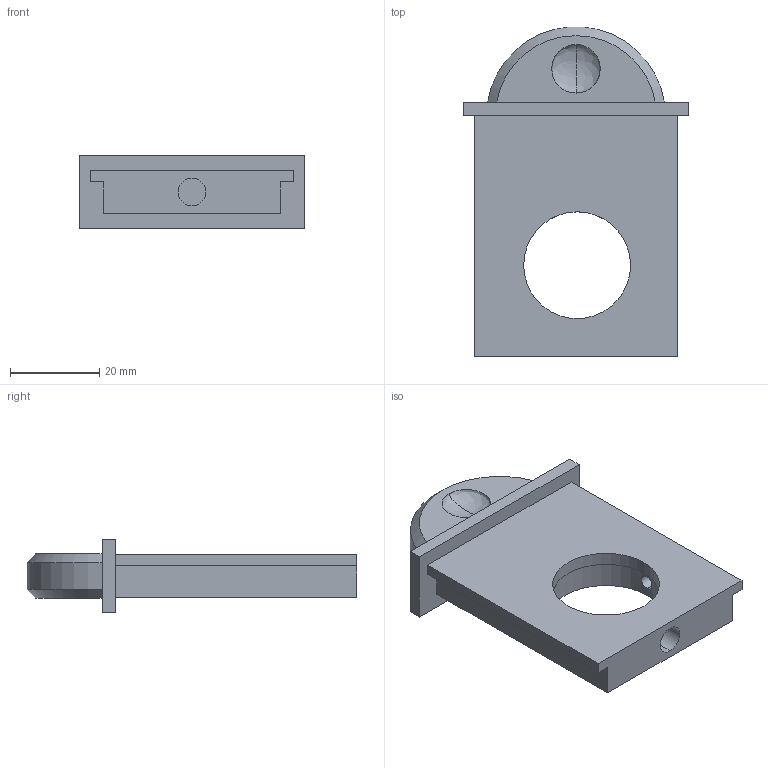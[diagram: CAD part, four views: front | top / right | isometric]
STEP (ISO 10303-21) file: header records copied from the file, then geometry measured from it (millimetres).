
FILE_DESCRIPTION (( 'STEP AP214' ), '1' );
FILE_NAME ('2019_miCube_Filter Holder 1 inch.STEP', '2019-05-27T07:27:41', ( '' ), ( '' ), 'SwSTEP 2.0', 'SolidWorks 2017', '' );
FILE_SCHEMA (( 'AUTOMOTIVE_DESIGN' ));
Length unit declared in the file: millimetre
Products named in the file (1): 2019_miCube_Filter Holder 1 inch
Bounding box: 50.5 x 73.78 x 16.5 mm (x, y, z)
Volume: 23124.5 mm3; surface area: 9127.7 mm2
Topology: 1 solids, 1 shells, 34 faces, 85 edges, 54 vertices
Faces by surface type: plane 19, cylinder 9, bspline 4, cone 2
Entity records: 1127 total; most frequent: CARTESIAN_POINT 308, ORIENTED_EDGE 162, DIRECTION 155, EDGE_CURVE 81, VERTEX_POINT 54, AXIS2_PLACEMENT_3D 53, VECTOR 49, LINE 49
